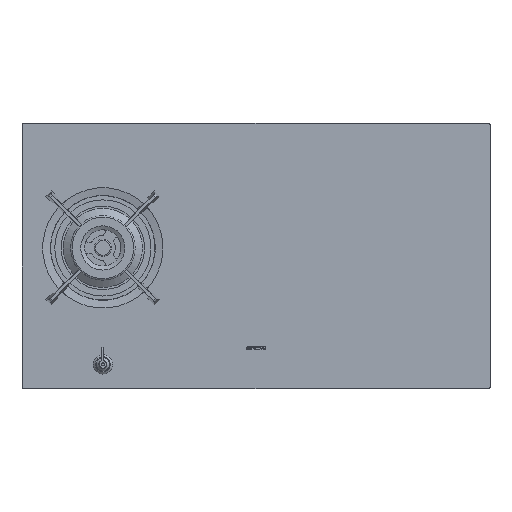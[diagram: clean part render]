
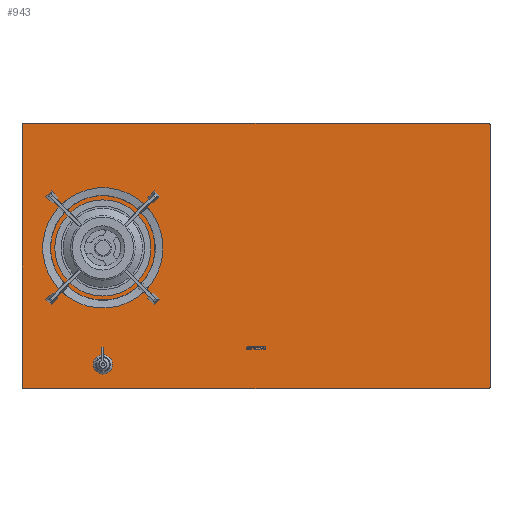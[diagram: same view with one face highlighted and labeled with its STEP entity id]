
A CAD part, top view. The second image highlights one B-rep face of the part: STEP entity #943.
In plain terms, the highlighted planar face has unit normal (0, 0, 1).
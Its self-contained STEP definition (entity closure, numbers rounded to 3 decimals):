
#401=CIRCLE('',#5525,12.5);
#402=CIRCLE('',#5526,85.);
#403=CIRCLE('',#5527,3.);
#404=CIRCLE('',#5528,3.);
#405=CIRCLE('',#5529,3.);
#406=CIRCLE('',#5530,3.);
#652=FACE_BOUND('',#1736,.T.);
#653=FACE_BOUND('',#1737,.T.);
#654=FACE_BOUND('',#1738,.T.);
#943=ADVANCED_FACE('',(#652,#653,#654),#1141,.T.);
#1141=PLANE('',#5531);
#1736=EDGE_LOOP('',(#3781));
#1737=EDGE_LOOP('',(#3782));
#1738=EDGE_LOOP('',(#3783,#3784,#3785,#3786,#3787,#3788,#3789,#3790));
#2160=LINE('',#8613,#2581);
#2164=LINE('',#8622,#2585);
#2170=LINE('',#8636,#2591);
#2172=LINE('',#8640,#2593);
#2581=VECTOR('',#6792,1.);
#2585=VECTOR('',#6798,1.);
#2591=VECTOR('',#6806,1.);
#2593=VECTOR('',#6810,1.);
#3781=ORIENTED_EDGE('',*,*,#4969,.F.);
#3782=ORIENTED_EDGE('',*,*,#4970,.F.);
#3783=ORIENTED_EDGE('',*,*,#4963,.T.);
#3784=ORIENTED_EDGE('',*,*,#4971,.T.);
#3785=ORIENTED_EDGE('',*,*,#4965,.T.);
#3786=ORIENTED_EDGE('',*,*,#4972,.T.);
#3787=ORIENTED_EDGE('',*,*,#4953,.T.);
#3788=ORIENTED_EDGE('',*,*,#4973,.T.);
#3789=ORIENTED_EDGE('',*,*,#4957,.T.);
#3790=ORIENTED_EDGE('',*,*,#4974,.T.);
#4334=VERTEX_POINT('',#8614);
#4335=VERTEX_POINT('',#8615);
#4338=VERTEX_POINT('',#8623);
#4339=VERTEX_POINT('',#8624);
#4344=VERTEX_POINT('',#8635);
#4345=VERTEX_POINT('',#8637);
#4346=VERTEX_POINT('',#8641);
#4347=VERTEX_POINT('',#8642);
#4350=VERTEX_POINT('',#8650);
#4351=VERTEX_POINT('',#8652);
#4953=EDGE_CURVE('',#4334,#4335,#2160,.T.);
#4957=EDGE_CURVE('',#4338,#4339,#2164,.T.);
#4963=EDGE_CURVE('',#4345,#4344,#2170,.T.);
#4965=EDGE_CURVE('',#4346,#4347,#2172,.T.);
#4969=EDGE_CURVE('',#4350,#4350,#401,.T.);
#4970=EDGE_CURVE('',#4351,#4351,#402,.T.);
#4971=EDGE_CURVE('',#4344,#4346,#403,.T.);
#4972=EDGE_CURVE('',#4347,#4334,#404,.T.);
#4973=EDGE_CURVE('',#4335,#4338,#405,.T.);
#4974=EDGE_CURVE('',#4339,#4345,#406,.T.);
#5525=AXIS2_PLACEMENT_3D('',#8649,#6816,#6817);
#5526=AXIS2_PLACEMENT_3D('',#8651,#6818,#6819);
#5527=AXIS2_PLACEMENT_3D('',#8653,#6820,#6821);
#5528=AXIS2_PLACEMENT_3D('',#8654,#6822,#6823);
#5529=AXIS2_PLACEMENT_3D('',#8655,#6824,#6825);
#5530=AXIS2_PLACEMENT_3D('',#8656,#6826,#6827);
#5531=AXIS2_PLACEMENT_3D('',#8657,#6828,#6829);
#6792=DIRECTION('',(0.,-1.,0.));
#6798=DIRECTION('',(1.,0.,0.));
#6806=DIRECTION('',(0.,1.,0.));
#6810=DIRECTION('',(-1.,0.,0.));
#6816=DIRECTION('',(0.,0.,1.));
#6817=DIRECTION('',(1.,0.,0.));
#6818=DIRECTION('',(0.,0.,1.));
#6819=DIRECTION('',(1.,0.,0.));
#6820=DIRECTION('',(0.,0.,1.));
#6821=DIRECTION('',(1.,0.,0.));
#6822=DIRECTION('',(0.,0.,1.));
#6823=DIRECTION('',(1.,0.,0.));
#6824=DIRECTION('',(0.,0.,1.));
#6825=DIRECTION('',(1.,0.,0.));
#6826=DIRECTION('',(0.,0.,1.));
#6827=DIRECTION('',(1.,0.,0.));
#6828=DIRECTION('',(0.,0.,1.));
#6829=DIRECTION('',(1.,0.,0.));
#8613=CARTESIAN_POINT('',(-450.,396.75,50.5));
#8614=CARTESIAN_POINT('',(-450.,393.75,50.5));
#8615=CARTESIAN_POINT('',(-450.,-110.25,50.5));
#8622=CARTESIAN_POINT('',(-450.,-113.25,50.5));
#8623=CARTESIAN_POINT('',(-447.,-113.25,50.5));
#8624=CARTESIAN_POINT('',(447.,-113.25,50.5));
#8635=CARTESIAN_POINT('',(450.,393.75,50.5));
#8636=CARTESIAN_POINT('',(450.,-113.25,50.5));
#8637=CARTESIAN_POINT('',(450.,-110.25,50.5));
#8640=CARTESIAN_POINT('',(450.,396.75,50.5));
#8641=CARTESIAN_POINT('',(447.,396.75,50.5));
#8642=CARTESIAN_POINT('',(-447.,396.75,50.5));
#8649=CARTESIAN_POINT('',(-294.5,-66.75,50.5));
#8650=CARTESIAN_POINT('',(-282.,-66.75,50.5));
#8651=CARTESIAN_POINT('',(-294.5,157.25,50.5));
#8652=CARTESIAN_POINT('',(-209.5,157.25,50.5));
#8653=CARTESIAN_POINT('',(447.,393.75,50.5));
#8654=CARTESIAN_POINT('',(-447.,393.75,50.5));
#8655=CARTESIAN_POINT('',(-447.,-110.25,50.5));
#8656=CARTESIAN_POINT('',(447.,-110.25,50.5));
#8657=CARTESIAN_POINT('',(0.,-113.25,50.5));
